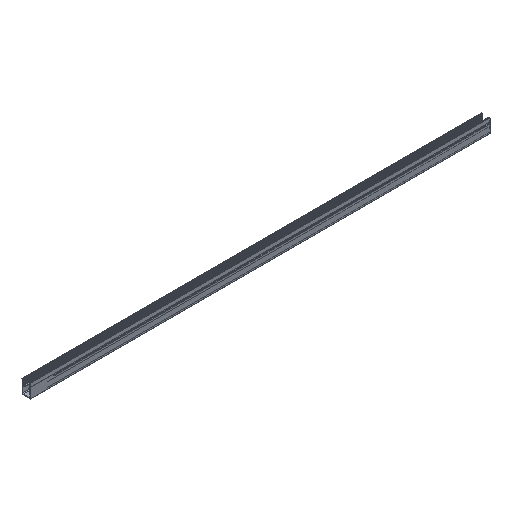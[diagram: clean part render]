
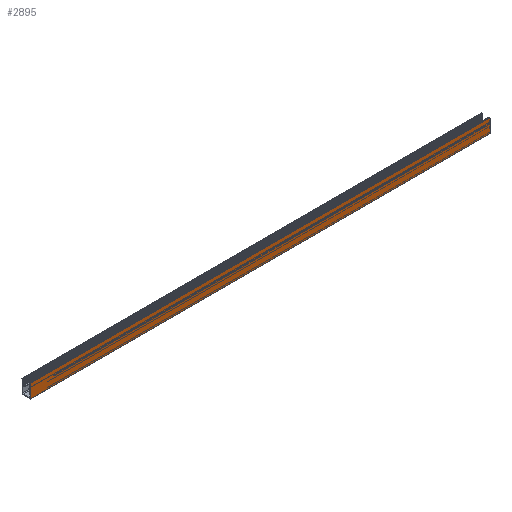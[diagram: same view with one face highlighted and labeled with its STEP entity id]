
A CAD part, isometric view. The second image highlights one B-rep face of the part: STEP entity #2895.
In plain terms, the highlighted planar face has unit normal (0, -1, 0).
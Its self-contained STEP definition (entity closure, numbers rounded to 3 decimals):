
#232=PLANE('',#3095);
#321=FACE_OUTER_BOUND('',#479,.T.);
#479=EDGE_LOOP('',(#2151,#2152,#2153,#2154));
#703=LINE('',#4024,#987);
#704=LINE('',#4027,#988);
#705=LINE('',#4029,#989);
#706=LINE('',#4030,#990);
#987=VECTOR('',#3437,10.);
#988=VECTOR('',#3440,10.);
#989=VECTOR('',#3441,10.);
#990=VECTOR('',#3442,10.);
#1295=VERTEX_POINT('',#4020);
#1296=VERTEX_POINT('',#4022);
#1297=VERTEX_POINT('',#4026);
#1298=VERTEX_POINT('',#4028);
#1641=EDGE_CURVE('',#1295,#1296,#703,.T.);
#1642=EDGE_CURVE('',#1297,#1295,#704,.T.);
#1643=EDGE_CURVE('',#1298,#1296,#705,.T.);
#1644=EDGE_CURVE('',#1297,#1298,#706,.T.);
#2151=ORIENTED_EDGE('',*,*,#1642,.T.);
#2152=ORIENTED_EDGE('',*,*,#1641,.T.);
#2153=ORIENTED_EDGE('',*,*,#1643,.F.);
#2154=ORIENTED_EDGE('',*,*,#1644,.F.);
#2895=ADVANCED_FACE('',(#321),#232,.T.);
#3095=AXIS2_PLACEMENT_3D('',#4025,#3438,#3439);
#3437=DIRECTION('',(1.,0.,0.));
#3438=DIRECTION('center_axis',(0.,-1.,0.));
#3439=DIRECTION('ref_axis',(0.,0.,-1.));
#3440=DIRECTION('',(0.,0.,-1.));
#3441=DIRECTION('',(0.,0.,-1.));
#3442=DIRECTION('',(1.,0.,0.));
#4020=CARTESIAN_POINT('',(0.,-9.436,0.5));
#4022=CARTESIAN_POINT('',(1000.,-9.436,0.5));
#4024=CARTESIAN_POINT('',(0.,-9.436,0.5));
#4025=CARTESIAN_POINT('Origin',(0.,-9.436,30.096));
#4026=CARTESIAN_POINT('',(0.,-9.436,30.096));
#4027=CARTESIAN_POINT('',(0.,-9.436,30.096));
#4028=CARTESIAN_POINT('',(1000.,-9.436,30.096));
#4029=CARTESIAN_POINT('',(1000.,-9.436,30.096));
#4030=CARTESIAN_POINT('',(0.,-9.436,30.096));
